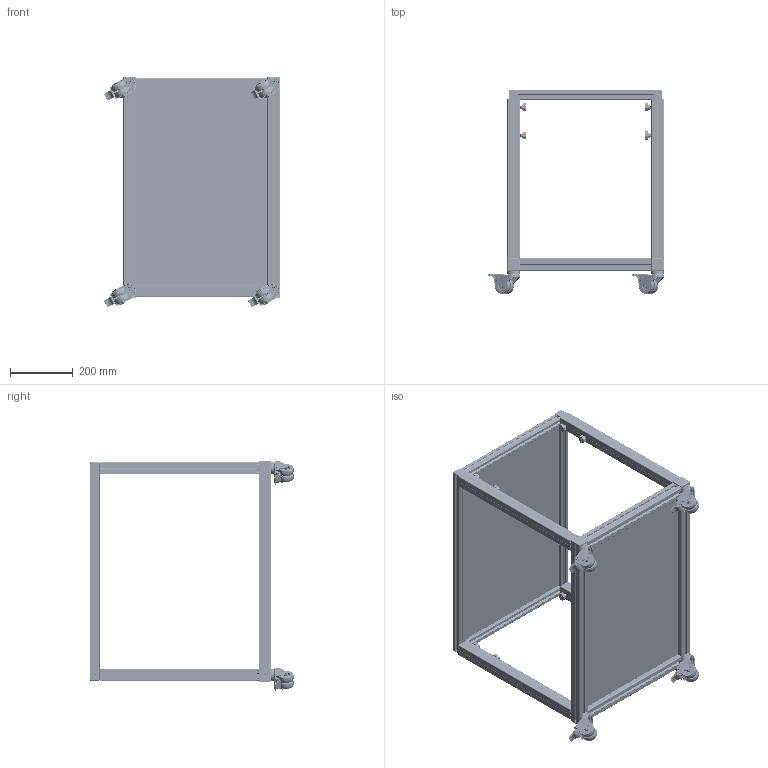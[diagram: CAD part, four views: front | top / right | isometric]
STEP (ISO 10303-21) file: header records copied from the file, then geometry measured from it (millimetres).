
FILE_DESCRIPTION (( 'STEP AP214' ), '1' );
FILE_NAME ('RSI-22002_700õ500õ650(950).STEP', '2024-11-01T12:48:35', ( 'Àëåêñåé' ), ( '' ), 'SwSTEP 2.0', 'SolidWorks 2022', '' );
FILE_SCHEMA (( 'AUTOMOTIVE_DESIGN' ));
Length unit declared in the file: millimetre
Products named in the file (45): OB-3030 Профиль 30х30 мм, паз 8 мм (Анодированный)_L=420 мм; Пластина для телескопического профиля версия 2_Для рендера; TS-4040-3030 Профиль телескопический 40х40 (Анодированный)_L=500 мм; Гайка DIN934_M6; RSI93505002-4_4; Винт ISO7380 (полусфера) кл. пр. 10.9_М8х25; RSI93505002-6; Винт DIN912 (полуцилиндр) кл. пр. 8.8_М4х20; Винт ISO7380 (полусфера) кл. пр. 10.9_М8х20; OB-4040L Профиль 40х40 мм. Паз 8 мм (Анодированный)_L=700 мм; OB-3030 Профиль 30х30 мм, паз 8 мм (Анодированный)_L=690 мм; Полка верхняя RSI-22002; RSI93505002-2; 4044_L=420 мм; Винт DIN7991 (потай) кл. пр. 8.8_М8x20; Заклёпка2_4; RSI-22002_700х500х650(950); D25M8H20; RSI93505002-7; Прокладка_L=420 мм; RSI93505002-3; 4044_L=640 мм; 4044_L=430 мм; RSI93505002-4_3; 4003; RSI93505002; Заклёпка2_3; RSI93505002-1; OB-4040L Профиль 40х40 мм. Паз 8 мм (Анодированный)_L=420 мм; D25M8H20 Part 1; Пластина для телескопического профиля1; 5071 (М8-40); OB-3030 Профиль 30х30 мм, паз 8 мм (Анодированный)_L=430 мм; Заклёпка1_3; 4002; D25M8H20 Part 2; Полка нижняя RSI-22002; Заклёпка1_4; TS-4040-Connector_Пластина; RSI93505002-5
Assembly tree (114 placements, depth 3):
  RSI-22002_700х500х650(950)
    TS-4040-3030 Профиль телескопический 40х40 (Анодированный)_L=500 мм
    TS-4040-3030 Профиль телескопический 40х40 (Анодированный)_L=500 мм
    TS-4040-3030 Профиль телескопический 40х40 (Анодированный)_L=500 мм
    TS-4040-3030 Профиль телескопический 40х40 (Анодированный)_L=500 мм
    OB-4040L Профиль 40х40 мм. Паз 8 мм (Анодированный)_L=700 мм
    OB-4040L Профиль 40х40 мм. Паз 8 мм (Анодированный)_L=700 мм
    OB-3030 Профиль 30х30 мм, паз 8 мм (Анодированный)_L=420 мм  x4
    Полка нижняя RSI-22002
    OB-4040L Профиль 40х40 мм. Паз 8 мм (Анодированный)_L=420 мм  x2
    RSI93505002  x4
      RSI93505002-1
      RSI93505002-2
      RSI93505002-3
      RSI93505002-4_4
      RSI93505002-5
      RSI93505002-6
      RSI93505002-4_3
      RSI93505002-7
      Заклёпка1_4
      Заклёпка1_3
      Заклёпка2_4
      Заклёпка2_3
    Полка верхняя RSI-22002
    D25M8H20  x8
      D25M8H20 Part 1
      D25M8H20 Part 2
    OB-3030 Профиль 30х30 мм, паз 8 мм (Анодированный)_L=690 мм
    OB-3030 Профиль 30х30 мм, паз 8 мм (Анодированный)_L=430 мм  x2
    OB-3030 Профиль 30х30 мм, паз 8 мм (Анодированный)_L=690 мм
    TS-4040-Connector_Пластина  x4
      Пластина для телескопического профиля1
      Гайка DIN934_M6
      Пластина для телескопического профиля версия 2_Для рендера
    4002  x4
    4003  x4
    Винт ISO7380 (полусфера) кл. пр. 10.9_М8х25  x12
    Винт ISO7380 (полусфера) кл. пр. 10.9_М8х20  x4
    Винт DIN912 (полуцилиндр) кл. пр. 8.8_М4х20  x16
    Винт DIN7991 (потай) кл. пр. 8.8_М8x20  x4
    5071 (М8-40)  x4
    4044_L=640 мм  x4
    4044_L=420 мм  x2
    4044_L=430 мм  x2
    Прокладка_L=420 мм  x4
Bounding box: 562.38 x 650.76 x 736.49 mm (x, y, z)
Volume: 5577570.4 mm3; surface area: 5028576.9 mm2
Topology: 266 solids, 266 shells, 13140 faces, 34716 edges, 22112 vertices
Faces by surface type: plane 5036, cylinder 4980, torus 1464, bspline 1228, cone 288, sphere 144
Entity records: 165779 total; most frequent: CARTESIAN_POINT 64421, ORIENTED_EDGE 20474, DIRECTION 18410, EDGE_CURVE 10237, VERTEX_POINT 6618, AXIS2_PLACEMENT_3D 6233, VECTOR 5944, LINE 5944
